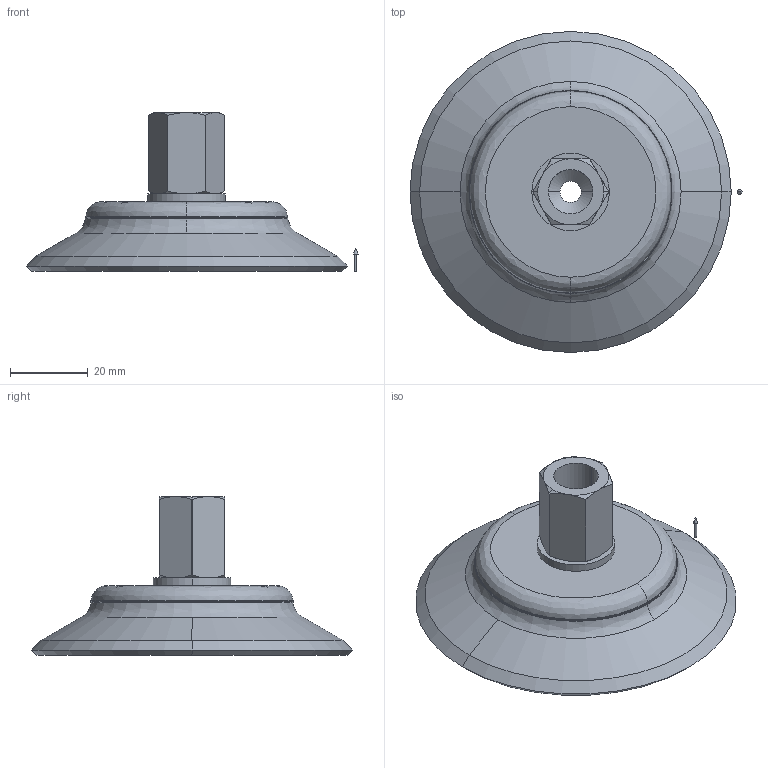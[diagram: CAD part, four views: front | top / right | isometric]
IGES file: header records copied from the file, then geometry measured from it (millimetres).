
Start section: 3D InterOp IGES (v. 2018 1.0.2), Spatial Corp. Copyright (c) 1999-2017.
Global section: file name: schmalz_10_01_01_00135_5wl0s0g14jddzoevvic1b0uia.igs; native system: Spatial Corp.; preprocessor: 3D InterOp ACIS/IGES; author: TraceParts; organization: TraceParts S.A.; date: 20181109.093825; units: millimetre
Bounding box: 85.61 x 82.83 x 41 mm (x, y, z)
Surface area: 15549.1 mm2 (no closed solid volume)
Topology: 0 solids, 0 shells, 85 faces, 360 edges, 358 vertices
Faces by surface type: revolution 67, extrusion 18
